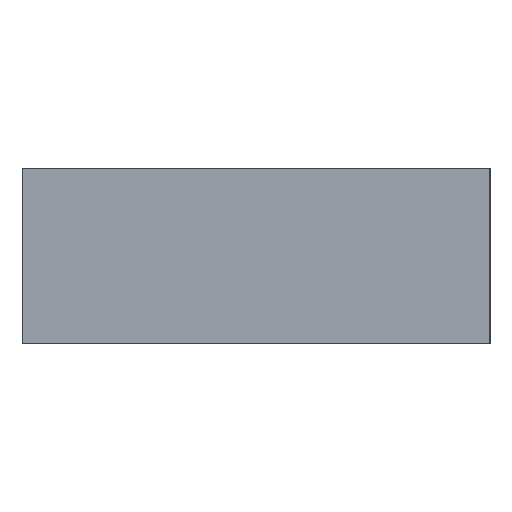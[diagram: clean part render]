
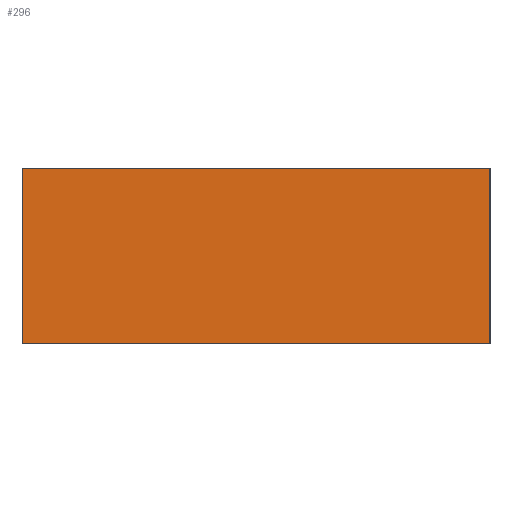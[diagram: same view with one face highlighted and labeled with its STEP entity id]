
A CAD part, left-side view. The second image highlights one B-rep face of the part: STEP entity #296.
In plain terms, the highlighted planar face has unit normal (-1, 0, 0).
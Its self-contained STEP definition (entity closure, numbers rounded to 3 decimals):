
#28=PLANE('',#351);
#48=FACE_OUTER_BOUND('',#64,.T.);
#64=EDGE_LOOP('',(#247,#248,#249,#250));
#94=LINE('',#505,#116);
#95=LINE('',#508,#117);
#96=LINE('',#510,#118);
#97=LINE('',#511,#119);
#116=VECTOR('',#425,10.);
#117=VECTOR('',#428,10.);
#118=VECTOR('',#429,10.);
#119=VECTOR('',#430,10.);
#157=VERTEX_POINT('',#498);
#160=VERTEX_POINT('',#503);
#161=VERTEX_POINT('',#507);
#162=VERTEX_POINT('',#509);
#194=EDGE_CURVE('',#157,#160,#94,.T.);
#195=EDGE_CURVE('',#161,#157,#95,.T.);
#196=EDGE_CURVE('',#162,#160,#96,.T.);
#197=EDGE_CURVE('',#161,#162,#97,.T.);
#247=ORIENTED_EDGE('',*,*,#195,.T.);
#248=ORIENTED_EDGE('',*,*,#194,.T.);
#249=ORIENTED_EDGE('',*,*,#196,.F.);
#250=ORIENTED_EDGE('',*,*,#197,.F.);
#296=ADVANCED_FACE('',(#48),#28,.T.);
#351=AXIS2_PLACEMENT_3D('',#506,#426,#427);
#425=DIRECTION('',(0.,0.,1.));
#426=DIRECTION('center_axis',(-1.,0.,0.));
#427=DIRECTION('ref_axis',(0.,-1.,0.));
#428=DIRECTION('',(0.,-1.,0.));
#429=DIRECTION('',(0.,-1.,0.));
#430=DIRECTION('',(0.,0.,1.));
#498=CARTESIAN_POINT('',(-50.,-4.,0.));
#503=CARTESIAN_POINT('',(-50.,-4.,3.));
#505=CARTESIAN_POINT('',(-50.,-4.,0.));
#506=CARTESIAN_POINT('Origin',(-50.,4.,0.));
#507=CARTESIAN_POINT('',(-50.,4.,0.));
#508=CARTESIAN_POINT('',(-50.,4.,0.));
#509=CARTESIAN_POINT('',(-50.,4.,3.));
#510=CARTESIAN_POINT('',(-50.,4.,3.));
#511=CARTESIAN_POINT('',(-50.,4.,0.));
